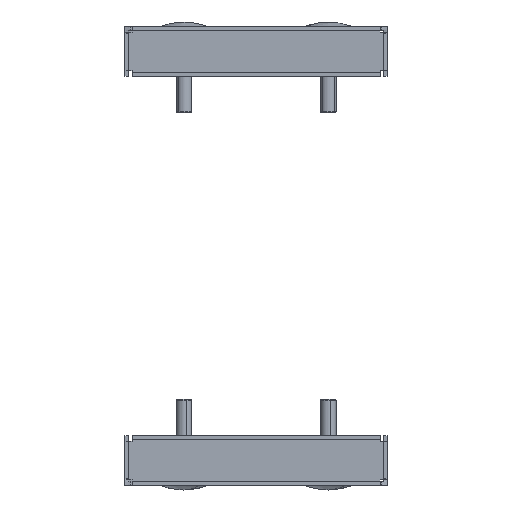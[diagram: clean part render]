
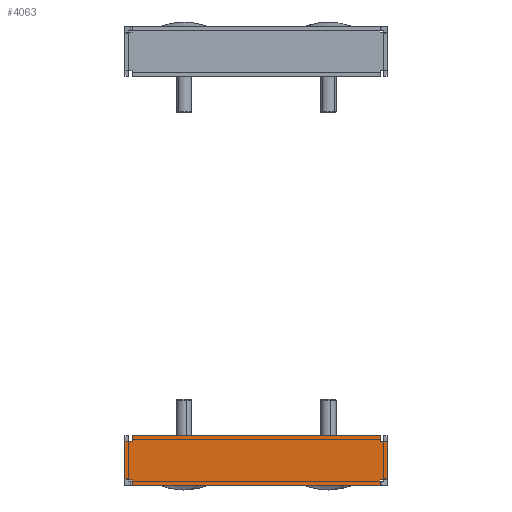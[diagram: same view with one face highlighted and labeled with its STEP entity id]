
A CAD part, left-side view. The second image highlights one B-rep face of the part: STEP entity #4063.
In plain terms, the highlighted planar face has unit normal (-1, 0, 0).
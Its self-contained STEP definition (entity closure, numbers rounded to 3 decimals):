
#24 = DIRECTION ( 'NONE',  ( 0., 0., -1. ) ) ;
#100 = LINE ( 'NONE', #6269, #2850 ) ;
#182 = CARTESIAN_POINT ( 'NONE',  ( -499.5, 47.3, -1.5 ) ) ;
#202 = ORIENTED_EDGE ( 'NONE', *, *, #5019, .T. ) ;
#224 = CARTESIAN_POINT ( 'NONE',  ( -499.5, -50., 0. ) ) ;
#312 = VERTEX_POINT ( 'NONE', #6330 ) ;
#445 = VERTEX_POINT ( 'NONE', #8142 ) ;
#628 = DIRECTION ( 'NONE',  ( 0., 1., 0. ) ) ;
#632 = DIRECTION ( 'NONE',  ( 0., 1., 0. ) ) ;
#648 = CARTESIAN_POINT ( 'NONE',  ( -499.5, 49.649, 0.758 ) ) ;
#699 = CARTESIAN_POINT ( 'NONE',  ( -499.5, -49.649, 0.758 ) ) ;
#728 = ORIENTED_EDGE ( 'NONE', *, *, #766, .F. ) ;
#766 = EDGE_CURVE ( 'NONE', #2172, #6378, #3481, .T. ) ;
#851 = EDGE_CURVE ( 'NONE', #5646, #8379, #6056, .T. ) ;
#887 = LINE ( 'NONE', #7052, #8586 ) ;
#915 = ORIENTED_EDGE ( 'NONE', *, *, #9662, .T. ) ;
#1173 = DIRECTION ( 'NONE',  ( 0., 0., 1. ) ) ;
#1342 = LINE ( 'NONE', #1976, #5903 ) ;
#1353 = VECTOR ( 'NONE', #628, 1000. ) ;
#1364 = CARTESIAN_POINT ( 'NONE',  ( -499.5, 47.3, 0. ) ) ;
#1687 = CARTESIAN_POINT ( 'NONE',  ( -499.5, 0., -1.5 ) ) ;
#1710 = ORIENTED_EDGE ( 'NONE', *, *, #6291, .F. ) ;
#1724 = EDGE_CURVE ( 'NONE', #3706, #8750, #8580, .T. ) ;
#1791 = LINE ( 'NONE', #8635, #5099 ) ;
#1883 = VERTEX_POINT ( 'NONE', #2080 ) ;
#1945 = CARTESIAN_POINT ( 'NONE',  ( -499.5, -47.9, 0.6 ) ) ;
#1976 = CARTESIAN_POINT ( 'NONE',  ( -499.5, 50., 0. ) ) ;
#1979 = EDGE_CURVE ( 'NONE', #5408, #1883, #3866, .T. ) ;
#2080 = CARTESIAN_POINT ( 'NONE',  ( -499.5, -47.3, 17.5 ) ) ;
#2172 = VERTEX_POINT ( 'NONE', #8859 ) ;
#2261 = ORIENTED_EDGE ( 'NONE', *, *, #7396, .F. ) ;
#2317 = DIRECTION ( 'NONE',  ( 0., 0., -1. ) ) ;
#2745 = CARTESIAN_POINT ( 'NONE',  ( -499.5, -47.3, 0. ) ) ;
#2831 = CARTESIAN_POINT ( 'NONE',  ( -499.5, -50., 0.777 ) ) ;
#2850 = VECTOR ( 'NONE', #5513, 1000. ) ;
#2970 = CARTESIAN_POINT ( 'NONE',  ( -499.5, 50., 0.777 ) ) ;
#3046 = ORIENTED_EDGE ( 'NONE', *, *, #1979, .T. ) ;
#3094 = CARTESIAN_POINT ( 'NONE',  ( -499.5, -47.3, 15.4 ) ) ;
#3209 = LINE ( 'NONE', #224, #7835 ) ;
#3469 = ORIENTED_EDGE ( 'NONE', *, *, #851, .T. ) ;
#3481 = LINE ( 'NONE', #1364, #7264 ) ;
#3659 = DIRECTION ( 'NONE',  ( 1., 0., 0. ) ) ;
#3706 = VERTEX_POINT ( 'NONE', #182 ) ;
#3723 = CARTESIAN_POINT ( 'NONE',  ( -499.5, 47.9, 0.6 ) ) ;
#3779 = ORIENTED_EDGE ( 'NONE', *, *, #1724, .T. ) ;
#3853 = EDGE_CURVE ( 'NONE', #6378, #1883, #887, .T. ) ;
#3866 = LINE ( 'NONE', #6196, #5808 ) ;
#3872 = CARTESIAN_POINT ( 'NONE',  ( -499.5, 47.9, 0.6 ) ) ;
#4043 = EDGE_CURVE ( 'NONE', #6913, #7883, #8309, .T. ) ;
#4063 = ADVANCED_FACE ( 'NONE', ( #6045 ), #9053, .F. ) ;
#4140 = VECTOR ( 'NONE', #6712, 1000. ) ;
#4177 = ORIENTED_EDGE ( 'NONE', *, *, #8145, .F. ) ;
#4197 = VECTOR ( 'NONE', #4758, 1000. ) ;
#4251 = CARTESIAN_POINT ( 'NONE',  ( -499.5, 47.9, 15.4 ) ) ;
#4330 = VERTEX_POINT ( 'NONE', #7376 ) ;
#4351 = CARTESIAN_POINT ( 'NONE',  ( -499.5, -47.3, 0.6 ) ) ;
#4401 = CARTESIAN_POINT ( 'NONE',  ( -499.5, -49.299, 0.734 ) ) ;
#4484 = CARTESIAN_POINT ( 'NONE',  ( -499.5, 0., 15.4 ) ) ;
#4491 = CARTESIAN_POINT ( 'NONE',  ( -499.5, 48.599, 0.674 ) ) ;
#4546 = CARTESIAN_POINT ( 'NONE',  ( -499.5, -48.599, 0.674 ) ) ;
#4638 = CARTESIAN_POINT ( 'NONE',  ( -499.5, 47.3, 0.6 ) ) ;
#4736 = AXIS2_PLACEMENT_3D ( 'NONE', #7547, #3659, #5999 ) ;
#4758 = DIRECTION ( 'NONE',  ( 0., -1., 0. ) ) ;
#4824 = ORIENTED_EDGE ( 'NONE', *, *, #3853, .F. ) ;
#4863 = DIRECTION ( 'NONE',  ( 0., 1., 0. ) ) ;
#4989 = VERTEX_POINT ( 'NONE', #4638 ) ;
#5019 = EDGE_CURVE ( 'NONE', #8379, #4989, #5499, .T. ) ;
#5051 = DIRECTION ( 'NONE',  ( 0., 0., -1. ) ) ;
#5099 = VECTOR ( 'NONE', #4863, 1000. ) ;
#5212 = ORIENTED_EDGE ( 'NONE', *, *, #8829, .T. ) ;
#5244 = CARTESIAN_POINT ( 'NONE',  ( -499.5, -47.9, 15.4 ) ) ;
#5333 = CARTESIAN_POINT ( 'NONE',  ( -499.5, 50., 0.777 ) ) ;
#5408 = VERTEX_POINT ( 'NONE', #3094 ) ;
#5434 = VECTOR ( 'NONE', #5825, 1000. ) ;
#5499 = LINE ( 'NONE', #3872, #7642 ) ;
#5513 = DIRECTION ( 'NONE',  ( 0., -1., 0. ) ) ;
#5599 = DIRECTION ( 'NONE',  ( 0., -1., 0. ) ) ;
#5646 = VERTEX_POINT ( 'NONE', #5333 ) ;
#5698 = CARTESIAN_POINT ( 'NONE',  ( -499.5, -47.3, -1.5 ) ) ;
#5752 = ORIENTED_EDGE ( 'NONE', *, *, #6240, .T. ) ;
#5797 = LINE ( 'NONE', #5244, #7661 ) ;
#5808 = VECTOR ( 'NONE', #8605, 1000. ) ;
#5825 = DIRECTION ( 'NONE',  ( 0., 0., -1. ) ) ;
#5903 = VECTOR ( 'NONE', #5051, 1000. ) ;
#5999 = DIRECTION ( 'NONE',  ( 0., 0., -1. ) ) ;
#6045 = FACE_OUTER_BOUND ( 'NONE', #6799, .T. ) ;
#6056 = B_SPLINE_CURVE_WITH_KNOTS ( 'NONE', 3,
 ( #2970, #648, #6857, #4491, #7002, #3723 ),
 .UNSPECIFIED., .F., .F.,
 ( 4, 2, 4 ),
 ( 0.006, 0.007, 0.008 ),
 .UNSPECIFIED. ) ;
#6100 = LINE ( 'NONE', #4484, #4140 ) ;
#6196 = CARTESIAN_POINT ( 'NONE',  ( -499.5, -47.3, 15.4 ) ) ;
#6230 = CARTESIAN_POINT ( 'NONE',  ( -499.5, 50., 15.4 ) ) ;
#6240 = EDGE_CURVE ( 'NONE', #312, #5408, #5797, .T. ) ;
#6269 = CARTESIAN_POINT ( 'NONE',  ( -499.5, 47.9, 15.4 ) ) ;
#6291 = EDGE_CURVE ( 'NONE', #9638, #6863, #1791, .T. ) ;
#6330 = CARTESIAN_POINT ( 'NONE',  ( -499.5, -47.9, 15.4 ) ) ;
#6378 = VERTEX_POINT ( 'NONE', #7983 ) ;
#6481 = EDGE_CURVE ( 'NONE', #9638, #4330, #7504, .T. ) ;
#6712 = DIRECTION ( 'NONE',  ( 0., -1., 0. ) ) ;
#6799 = EDGE_LOOP ( 'NONE', ( #5752, #3046, #4824, #728, #9352, #6805, #5212, #3469, #202, #915, #3779, #4177, #1710, #7309, #9646, #2261 ) ) ;
#6805 = ORIENTED_EDGE ( 'NONE', *, *, #4043, .T. ) ;
#6857 = CARTESIAN_POINT ( 'NONE',  ( -499.5, 49.299, 0.734 ) ) ;
#6863 = VERTEX_POINT ( 'NONE', #4351 ) ;
#6913 = VERTEX_POINT ( 'NONE', #4251 ) ;
#7002 = CARTESIAN_POINT ( 'NONE',  ( -499.5, 48.249, 0.637 ) ) ;
#7052 = CARTESIAN_POINT ( 'NONE',  ( -499.5, 0., 17.5 ) ) ;
#7264 = VECTOR ( 'NONE', #1173, 1000. ) ;
#7309 = ORIENTED_EDGE ( 'NONE', *, *, #6481, .T. ) ;
#7376 = CARTESIAN_POINT ( 'NONE',  ( -499.5, -50., 0.777 ) ) ;
#7396 = EDGE_CURVE ( 'NONE', #312, #445, #6100, .T. ) ;
#7504 = B_SPLINE_CURVE_WITH_KNOTS ( 'NONE', 3,
 ( #1945, #8235, #4546, #4401, #699, #2831 ),
 .UNSPECIFIED., .F., .F.,
 ( 4, 2, 4 ),
 ( 0.006, 0.007, 0.008 ),
 .UNSPECIFIED. ) ;
#7525 = VECTOR ( 'NONE', #2317, 1000. ) ;
#7547 = CARTESIAN_POINT ( 'NONE',  ( -499.5, 0., 0. ) ) ;
#7590 = EDGE_CURVE ( 'NONE', #445, #4330, #3209, .T. ) ;
#7642 = VECTOR ( 'NONE', #5599, 1000. ) ;
#7661 = VECTOR ( 'NONE', #632, 1000. ) ;
#7835 = VECTOR ( 'NONE', #24, 1000. ) ;
#7883 = VERTEX_POINT ( 'NONE', #6230 ) ;
#7983 = CARTESIAN_POINT ( 'NONE',  ( -499.5, 47.3, 17.5 ) ) ;
#8142 = CARTESIAN_POINT ( 'NONE',  ( -499.5, -50., 15.4 ) ) ;
#8145 = EDGE_CURVE ( 'NONE', #6863, #8750, #9634, .T. ) ;
#8235 = CARTESIAN_POINT ( 'NONE',  ( -499.5, -48.249, 0.637 ) ) ;
#8309 = LINE ( 'NONE', #8354, #1353 ) ;
#8354 = CARTESIAN_POINT ( 'NONE',  ( -499.5, 47.9, 15.4 ) ) ;
#8379 = VERTEX_POINT ( 'NONE', #9515 ) ;
#8452 = CARTESIAN_POINT ( 'NONE',  ( -499.5, -47.9, 0.6 ) ) ;
#8580 = LINE ( 'NONE', #1687, #4197 ) ;
#8586 = VECTOR ( 'NONE', #9354, 1000. ) ;
#8605 = DIRECTION ( 'NONE',  ( 0., 0., 1. ) ) ;
#8635 = CARTESIAN_POINT ( 'NONE',  ( -499.5, -47.9, 0.6 ) ) ;
#8750 = VERTEX_POINT ( 'NONE', #5698 ) ;
#8829 = EDGE_CURVE ( 'NONE', #7883, #5646, #1342, .T. ) ;
#8859 = CARTESIAN_POINT ( 'NONE',  ( -499.5, 47.3, 15.4 ) ) ;
#9053 = PLANE ( 'NONE',  #4736 ) ;
#9207 = CARTESIAN_POINT ( 'NONE',  ( -499.5, 47.3, 0.6 ) ) ;
#9352 = ORIENTED_EDGE ( 'NONE', *, *, #9461, .F. ) ;
#9354 = DIRECTION ( 'NONE',  ( 0., -1., 0. ) ) ;
#9461 = EDGE_CURVE ( 'NONE', #6913, #2172, #100, .T. ) ;
#9515 = CARTESIAN_POINT ( 'NONE',  ( -499.5, 47.9, 0.6 ) ) ;
#9634 = LINE ( 'NONE', #2745, #5434 ) ;
#9638 = VERTEX_POINT ( 'NONE', #8452 ) ;
#9646 = ORIENTED_EDGE ( 'NONE', *, *, #7590, .F. ) ;
#9662 = EDGE_CURVE ( 'NONE', #4989, #3706, #9940, .T. ) ;
#9940 = LINE ( 'NONE', #9207, #7525 ) ;
